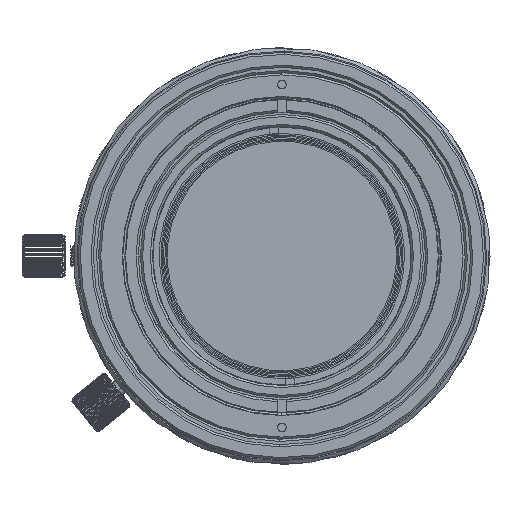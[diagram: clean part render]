
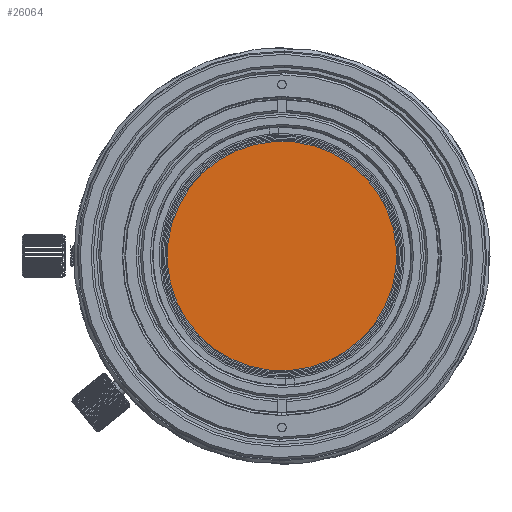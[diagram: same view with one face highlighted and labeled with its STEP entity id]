
A CAD part, left-side view. The second image highlights one B-rep face of the part: STEP entity #26064.
In plain terms, the highlighted planar face has unit normal (-1, 0, 0).
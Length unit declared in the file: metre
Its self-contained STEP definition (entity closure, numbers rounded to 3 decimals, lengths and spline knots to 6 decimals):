
#26017=CARTESIAN_POINT('',(-0.009547,-0.00104,
0.011152));
#26018=CARTESIAN_POINT('',(-0.009547,-0.001959,
0.011063));
#26019=CARTESIAN_POINT('',(-0.009547,-0.003719,
0.010681));
#26020=CARTESIAN_POINT('',(-0.009547,-0.006201,
0.009462));
#26021=CARTESIAN_POINT('',(-0.009547,-0.008299,
0.007683));
#26022=CARTESIAN_POINT('',(-0.009547,-0.009889,
0.005485));
#26023=CARTESIAN_POINT('',(-0.009547,-0.010915,
0.002961));
#26024=CARTESIAN_POINT('',(-0.009547,-0.011305,
0.000274));
#26025=CARTESIAN_POINT('',(-0.009547,-0.011045,
-0.002426));
#26026=CARTESIAN_POINT('',(-0.009547,-0.010147,
-0.004995));
#26027=CARTESIAN_POINT('',(-0.009547,-0.008655,
-0.007277));
#26028=CARTESIAN_POINT('',(-0.009547,-0.006687,
-0.009118));
#26029=CARTESIAN_POINT('',(-0.009547,-0.004312,
-0.010457));
#26030=CARTESIAN_POINT('',(-0.009547,-0.001671,
-0.011185));
#26031=CARTESIAN_POINT('',(-0.009547,0.000123,
-0.011234));
#26032=CARTESIAN_POINT('',(-0.009547,0.00104,
-0.011152));
#26034=CARTESIAN_POINT('',(-0.009547,0.00104,
-0.011152));
#26035=CARTESIAN_POINT('',(-0.009547,0.001959,
-0.011063));
#26036=CARTESIAN_POINT('',(-0.009547,0.003719,
-0.010681));
#26037=CARTESIAN_POINT('',(-0.009547,0.006201,
-0.009462));
#26038=CARTESIAN_POINT('',(-0.009547,0.008299,
-0.007683));
#26039=CARTESIAN_POINT('',(-0.009547,0.009889,
-0.005485));
#26040=CARTESIAN_POINT('',(-0.009547,0.010915,
-0.002961));
#26041=CARTESIAN_POINT('',(-0.009547,0.011305,
-0.000274));
#26042=CARTESIAN_POINT('',(-0.009547,0.011045,
0.002426));
#26043=CARTESIAN_POINT('',(-0.009547,0.010147,
0.004995));
#26044=CARTESIAN_POINT('',(-0.009547,0.008655,
0.007277));
#26045=CARTESIAN_POINT('',(-0.009547,0.006687,
0.009118));
#26046=CARTESIAN_POINT('',(-0.009547,0.004312,
0.010457));
#26047=CARTESIAN_POINT('',(-0.009547,0.001671,
0.011185));
#26048=CARTESIAN_POINT('',(-0.009547,-0.000123,
0.011234));
#26049=CARTESIAN_POINT('',(-0.009547,-0.00104,
0.011152));
#26051=VERTEX_POINT('',#26032);
#26052=VERTEX_POINT('',#26017);
#26053=CARTESIAN_POINT('',(-0.009547,0.011301,
0.001054));
#26054=DIRECTION('',(1.,0.,0.));
#26055=DIRECTION('',(0.,0.093,-0.996));
#26056=AXIS2_PLACEMENT_3D('',#26053,#26054,#26055);
#26057=PLANE('',#26056);
#26059=ORIENTED_EDGE('',*,*,#26058,.T.);
#26061=ORIENTED_EDGE('',*,*,#26060,.T.);
#26062=EDGE_LOOP('',(#26059,#26061));
#26063=FACE_OUTER_BOUND('',#26062,.F.);
#26064=ADVANCED_FACE('',(#26063),#26057,.F.);
#26033=B_SPLINE_CURVE_WITH_KNOTS('',3,(#26017,#26018,#26019,#26020,#26021,
#26022,#26023,#26024,#26025,#26026,#26027,#26028,#26029,#26030,#26031,#26032),
.UNSPECIFIED.,.F.,.F.,(4,1,1,1,1,1,1,1,1,1,1,1,1,4),(0.,0.076923,
0.153846,0.230769,0.307692,0.384615,
0.461538,0.538462,0.615385,0.692308,
0.769231,0.846154,0.923077,1.),.UNSPECIFIED.);
#26050=B_SPLINE_CURVE_WITH_KNOTS('',3,(#26034,#26035,#26036,#26037,#26038,
#26039,#26040,#26041,#26042,#26043,#26044,#26045,#26046,#26047,#26048,#26049),
.UNSPECIFIED.,.F.,.F.,(4,1,1,1,1,1,1,1,1,1,1,1,1,4),(0.,0.076923,
0.153846,0.230769,0.307692,0.384615,
0.461538,0.538462,0.615385,0.692308,
0.769231,0.846154,0.923077,1.),.UNSPECIFIED.);
#26058=EDGE_CURVE('',#26052,#26051,#26033,.T.);
#26060=EDGE_CURVE('',#26051,#26052,#26050,.T.);
